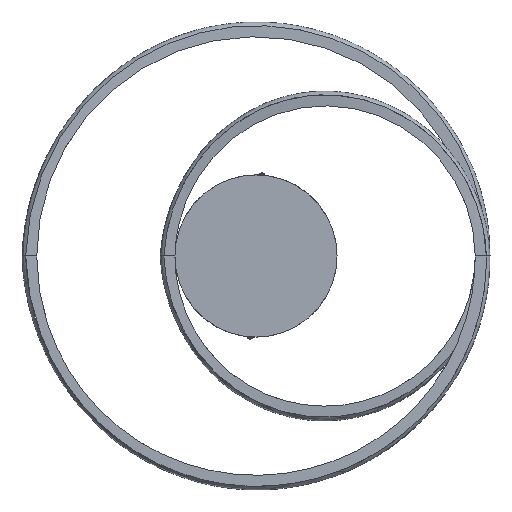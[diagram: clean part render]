
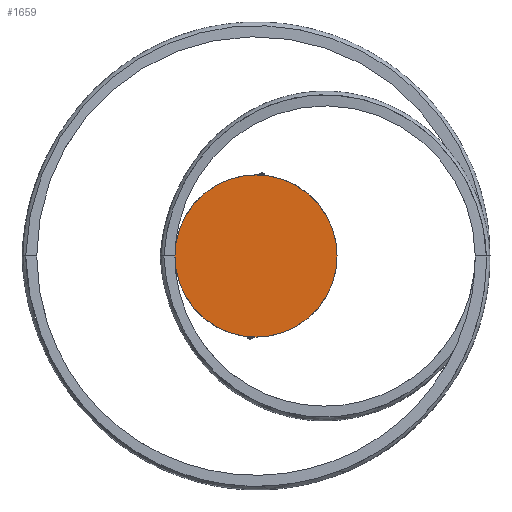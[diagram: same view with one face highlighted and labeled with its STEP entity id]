
A CAD part, front view. The second image highlights one B-rep face of the part: STEP entity #1659.
In plain terms, the highlighted planar face has unit normal (0, -1, 0).
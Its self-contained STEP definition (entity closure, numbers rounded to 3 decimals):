
#213=PLANE('',#5570);
#679=CIRCLE('',#5549,110.);
#687=CIRCLE('',#5558,110.);
#1659=ADVANCED_FACE('',(#1955),#213,.F.);
#1955=FACE_OUTER_BOUND('',#2269,.T.);
#2269=EDGE_LOOP('',(#3697,#3698));
#3697=ORIENTED_EDGE('',*,*,#5035,.F.);
#3698=ORIENTED_EDGE('',*,*,#5018,.F.);
#4292=VERTEX_POINT('',#18335);
#4293=VERTEX_POINT('',#18337);
#5018=EDGE_CURVE('',#4292,#4293,#679,.T.);
#5035=EDGE_CURVE('',#4293,#4292,#687,.T.);
#5549=AXIS2_PLACEMENT_3D('',#18336,#6539,#6540);
#5558=AXIS2_PLACEMENT_3D('',#18441,#6562,#6563);
#5570=AXIS2_PLACEMENT_3D('',#18916,#6608,#6609);
#6539=DIRECTION('',(0.,1.,0.));
#6540=DIRECTION('',(0.,0.,1.));
#6562=DIRECTION('',(0.,1.,0.));
#6563=DIRECTION('',(0.,0.,1.));
#6608=DIRECTION('',(0.,1.,0.));
#6609=DIRECTION('',(0.,0.,-1.));
#18335=CARTESIAN_POINT('',(0.,-20.,110.));
#18336=CARTESIAN_POINT('',(0.,-20.,0.));
#18337=CARTESIAN_POINT('',(0.,-20.,-110.));
#18441=CARTESIAN_POINT('',(0.,-20.,0.));
#18916=CARTESIAN_POINT('',(0.,-20.,0.));
